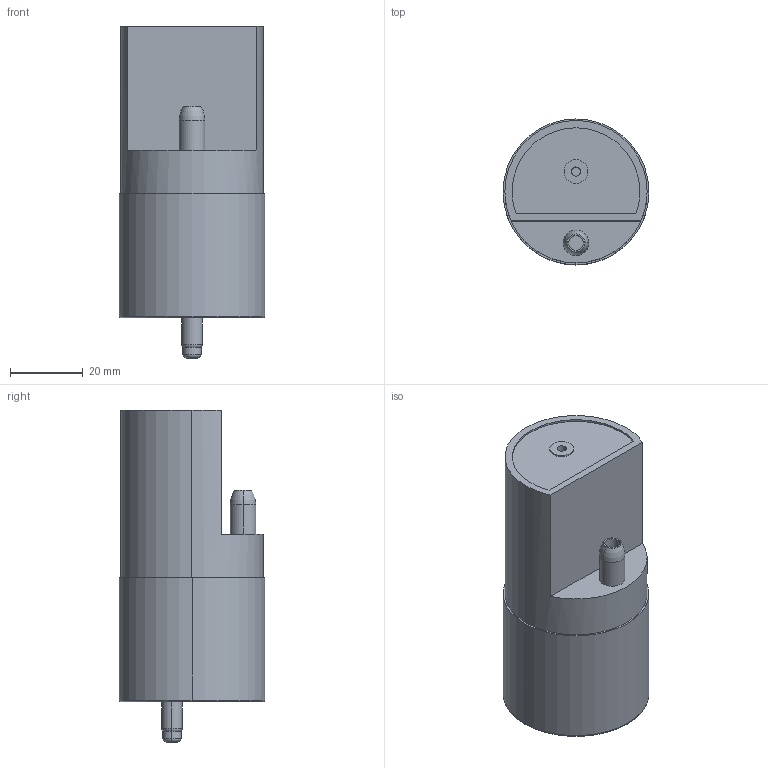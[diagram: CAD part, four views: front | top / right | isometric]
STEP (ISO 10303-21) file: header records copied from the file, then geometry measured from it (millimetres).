
FILE_DESCRIPTION (( 'STEP AP203' ), '1' );
FILE_NAME ('3300.001.STEP', '2024-07-23T11:06:20', ( '' ), ( '' ), 'SwSTEP 2.0', 'SolidWorks 2021', '' );
FILE_SCHEMA (( 'CONFIG_CONTROL_DESIGN' ));
Length unit declared in the file: millimetre
Products named in the file (4): Filter-Bottom; Filter-Material; 3300.001; Filter-Top-Red
Assembly tree (3 placements, depth 2):
  3300.001
    Filter-Top-Red
    Filter-Bottom
    Filter-Material
Bounding box: 40 x 40 x 91 mm (x, y, z)
Volume: 36802.4 mm3; surface area: 36783.5 mm2
Topology: 3 solids, 3 shells, 91 faces, 195 edges, 124 vertices
Faces by surface type: cylinder 44, plane 28, cone 11, torus 8
Entity records: 2946 total; most frequent: DIRECTION 506, CARTESIAN_POINT 438, ORIENTED_EDGE 390, AXIS2_PLACEMENT_3D 218, EDGE_CURVE 195, VERTEX_POINT 124, CIRCLE 121, EDGE_LOOP 111
